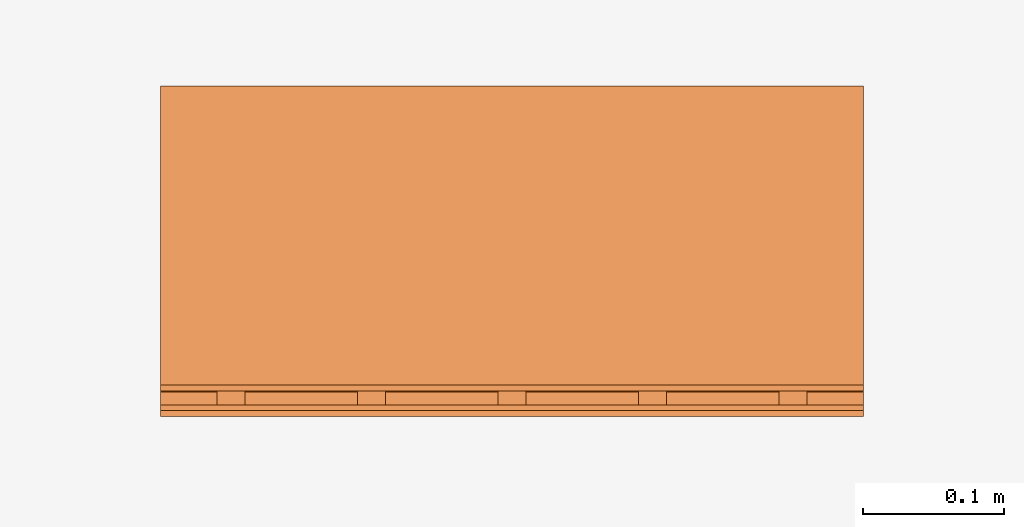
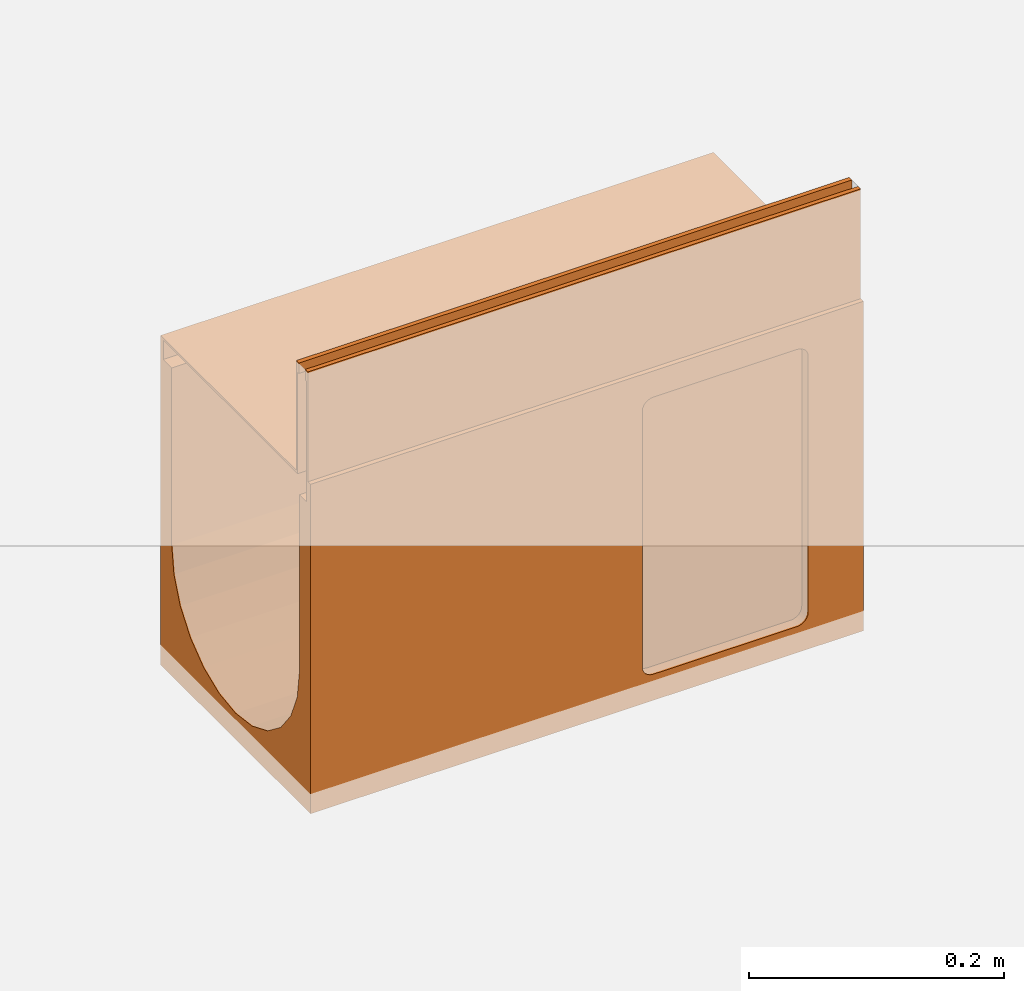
# One storey, part 2 of 2: 1 proxy.
"""IFC2X3 building model written with IfcOpenShell, lengths in millimetres."""

from ifc_helpers import new_model, entity, si_unit, converted_unit, direction, frame, origin, place, context, subcontext, project, spatial, faceted_brep, source, transform, mapped, material, material_list, element, save


model = new_model("IFC2X3")

# Units and contexts
model_context = context("Model", 3, precision=1e-06, world=origin(), true_north=direction((2.0, 6.12303176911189e-17, 1.0)))
context_of_model = context(None, 3, precision=1e-06, world=origin(), true_north=direction((2.0, 6.12303176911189e-17, 1.0)))
body_context = subcontext(model_context, "Body", "Model", "MODEL_VIEW")
ifc_project = project(units=[si_unit("LENGTHUNIT", "METRE", prefix="MILLI"), si_unit("AREAUNIT", "SQUARE_METRE", prefix="MILLI"), si_unit("VOLUMEUNIT", "CUBIC_METRE", prefix="MILLI"), converted_unit("PLANEANGLEUNIT", "DEGREE", entity("IfcRatioMeasure", 0.0174532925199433), si_unit("PLANEANGLEUNIT", "RADIAN"), dimensions=[0, 0, 0, 0, 0, 0, 0]), si_unit("TIMEUNIT", "SECOND")], contexts=[model_context, context_of_model])

# Site, building, storey
site_placement = place(None, origin())
site = spatial("IfcSite", under=ifc_project, at=site_placement, Name="Default", CompositionType="ELEMENT")
building_placement = place(site_placement, origin())
building = spatial("IfcBuilding", under=site, at=building_placement, CompositionType="ELEMENT")
storey_placement = place(building_placement, origin())
storey = spatial("IfcBuildingStorey", under=building, at=storey_placement, Name="Level 1", CompositionType="ELEMENT", Elevation=0.0)

# Proxy
ifc_material_1 = material(Name="Stainless Steel (F)")
ifc_material_2 = material(Name="Vienite® Synthetic Resin Concrete")
ifc_material_list = material_list([ifc_material_1, ifc_material_2])
shared_shape = source(origin(), body_context, "Body", "Brep", [
    faceted_brep([(113.250000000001, 40.0, -107.0), (113.250000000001, 42.0, -109.0), (113.250000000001, 58.0, -109.0), (113.250000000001, 60.0, -107.0), (113.250000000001, 42.0, -123.499999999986), (113.250000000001, 40.0, -125.499999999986), (113.250000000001, 58.0, -123.499999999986), (113.250000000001, 60.0, -125.499999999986), (-111.249999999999, 40.0, -125.499999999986), (-111.249999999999, 42.0, -123.499999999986), (-111.249999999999, 58.0, -123.499999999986), (-111.249999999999, 60.0, -125.499999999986), (-111.249999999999, 42.0, -109.0), (-111.249999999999, 40.0, -107.0), (-111.249999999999, 58.0, -109.0), (-111.249999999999, 60.0, -107.0)], [[[0, 1, 2, 3]], [[4, 1, 0, 5]], [[3, 2, 6, 7]], [[6, 4, 5, 7]], [[8, 9, 10, 11]], [[12, 9, 8, 13]], [[11, 10, 14, 15]], [[14, 12, 13, 15]], [[8, 5, 0, 13]], [[7, 5, 8, 11]], [[15, 3, 7, 11]], [[0, 3, 15, 13]], [[1, 4, 9, 12]], [[2, 1, 12, 14]], [[10, 6, 2, 14]], [[4, 6, 10, 9]]]),
    faceted_brep([(113.250000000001, 140.0, -107.0), (113.250000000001, 142.0, -109.0), (113.250000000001, 158.0, -109.0), (113.250000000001, 160.0, -107.0), (113.250000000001, 142.0, -123.499999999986), (113.250000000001, 140.0, -125.499999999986), (113.250000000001, 158.0, -123.499999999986), (113.250000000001, 160.0, -125.499999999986), (-111.249999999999, 140.0, -125.499999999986), (-111.249999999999, 142.0, -123.499999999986), (-111.249999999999, 158.0, -123.499999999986), (-111.249999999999, 160.0, -125.499999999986), (-111.249999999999, 142.0, -109.0), (-111.249999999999, 140.0, -107.0), (-111.249999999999, 158.0, -109.0), (-111.249999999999, 160.0, -107.0)], [[[0, 1, 2, 3]], [[4, 1, 0, 5]], [[3, 2, 6, 7]], [[6, 4, 5, 7]], [[8, 9, 10, 11]], [[12, 9, 8, 13]], [[11, 10, 14, 15]], [[14, 12, 13, 15]], [[8, 5, 0, 13]], [[7, 5, 8, 11]], [[15, 3, 7, 11]], [[0, 3, 15, 13]], [[1, 4, 9, 12]], [[2, 1, 12, 14]], [[10, 6, 2, 14]], [[4, 6, 10, 9]]]),
    faceted_brep([(113.250000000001, 240.0, -107.0), (113.250000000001, 242.0, -109.0), (113.250000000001, 258.0, -109.0), (113.250000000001, 260.0, -107.0), (113.250000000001, 242.0, -123.499999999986), (113.250000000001, 240.0, -125.499999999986), (113.250000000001, 258.0, -123.499999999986), (113.250000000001, 260.0, -125.499999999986), (-111.249999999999, 240.0, -125.499999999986), (-111.249999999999, 242.0, -123.499999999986), (-111.249999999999, 258.0, -123.499999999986), (-111.249999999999, 260.0, -125.499999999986), (-111.249999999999, 242.0, -109.0), (-111.249999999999, 240.0, -107.0), (-111.249999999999, 258.0, -109.0), (-111.249999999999, 260.0, -107.0)], [[[0, 1, 2, 3]], [[4, 1, 0, 5]], [[3, 2, 6, 7]], [[6, 4, 5, 7]], [[8, 9, 10, 11]], [[12, 9, 8, 13]], [[11, 10, 14, 15]], [[14, 12, 13, 15]], [[8, 5, 0, 13]], [[7, 5, 8, 11]], [[15, 3, 7, 11]], [[0, 3, 15, 13]], [[1, 4, 9, 12]], [[2, 1, 12, 14]], [[10, 6, 2, 14]], [[4, 6, 10, 9]]]),
    faceted_brep([(113.250000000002, 340.0, -107.0), (113.250000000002, 342.0, -109.0), (113.250000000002, 358.0, -109.0), (113.250000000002, 360.0, -107.0), (113.250000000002, 342.0, -123.499999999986), (113.250000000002, 340.0, -125.499999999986), (113.250000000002, 358.0, -123.499999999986), (113.250000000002, 360.0, -125.499999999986), (-111.249999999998, 340.0, -125.499999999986), (-111.249999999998, 342.0, -123.499999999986), (-111.249999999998, 358.0, -123.499999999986), (-111.249999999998, 360.0, -125.499999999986), (-111.249999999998, 342.0, -109.0), (-111.249999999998, 340.0, -107.0), (-111.249999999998, 358.0, -109.0), (-111.249999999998, 360.0, -107.0)], [[[0, 1, 2, 3]], [[4, 1, 0, 5]], [[3, 2, 6, 7]], [[6, 4, 5, 7]], [[8, 9, 10, 11]], [[12, 9, 8, 13]], [[11, 10, 14, 15]], [[14, 12, 13, 15]], [[8, 5, 0, 13]], [[7, 5, 8, 11]], [[15, 3, 7, 11]], [[0, 3, 15, 13]], [[1, 4, 9, 12]], [[2, 1, 12, 14]], [[10, 6, 2, 14]], [[4, 6, 10, 9]]]),
    faceted_brep([(113.250000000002, 440.0, -107.0), (113.250000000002, 442.0, -109.0), (113.250000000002, 458.0, -109.0), (113.250000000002, 460.0, -107.0), (113.250000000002, 442.0, -123.499999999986), (113.250000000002, 440.0, -125.499999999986), (113.250000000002, 458.0, -123.499999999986), (113.250000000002, 460.0, -125.499999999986), (-111.249999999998, 440.0, -125.499999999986), (-111.249999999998, 442.0, -123.499999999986), (-111.249999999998, 458.0, -123.499999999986), (-111.249999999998, 460.0, -125.499999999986), (-111.249999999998, 442.0, -109.0), (-111.249999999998, 440.0, -107.0), (-111.249999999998, 458.0, -109.0), (-111.249999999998, 460.0, -107.0)], [[[0, 1, 2, 3]], [[4, 1, 0, 5]], [[3, 2, 6, 7]], [[6, 4, 5, 7]], [[8, 9, 10, 11]], [[12, 9, 8, 13]], [[11, 10, 14, 15]], [[14, 12, 13, 15]], [[8, 5, 0, 13]], [[7, 5, 8, 11]], [[15, 3, 7, 11]], [[0, 3, 15, 13]], [[1, 4, 9, 12]], [[2, 1, 12, 14]], [[10, 6, 2, 14]], [[4, 6, 10, 9]]]),
    faceted_brep([(-97.2500000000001, 0.0, -10.0), (-97.2500000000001, 0.0, -107.0), (-95.25, 0.0, -105.0), (-95.25, 0.0, 0.0), (-99.2500000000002, 0.0, 0.0), (-99.2500000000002, 0.0, -10.0), (113.250000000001, 0.0, -107.0), (113.250000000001, 0.0, -105.0), (-95.25, 500.0, -105.0), (113.250000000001, 500.0, -105.0), (113.250000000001, 500.0, -107.0), (-97.2500000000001, 500.0, -107.0), (-97.2500000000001, 500.0, -10.0), (-95.25, 500.0, 0.0), (-99.2500000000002, 500.0, -10.0), (-99.2500000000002, 500.0, 0.0)], [[[0, 1, 2, 3]], [[4, 5, 0, 3]], [[6, 7, 2, 1]], [[8, 9, 10, 11]], [[12, 13, 8, 11]], [[12, 14, 15, 13]], [[12, 0, 5, 14]], [[1, 0, 12, 11]], [[6, 1, 11, 10]], [[9, 7, 6, 10]], [[8, 2, 7, 9]], [[3, 2, 8, 13]], [[4, 3, 13, 15]], [[5, 4, 15, 14]]]),
    faceted_brep([(-109.25, 500.0, 0.0), (-109.25, 500.0, -10.0), (-111.25, 500.0, -10.0), (-113.25, 500.0, 0.0), (-113.25, 500.0, -125.499999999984), (-111.25, 500.0, -125.499999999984), (-111.25, 0.0, -10.0), (-113.25, 0.0, 0.0), (-113.25, 0.0, -125.499999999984), (-111.25, 0.0, -125.499999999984), (-109.25, 0.0, 0.0), (-109.25, 0.0, -10.0)], [[[0, 1, 2, 3]], [[4, 3, 2, 5]], [[6, 7, 8, 9]], [[10, 7, 6, 11]], [[5, 9, 8, 4]], [[6, 9, 5, 2]], [[1, 11, 6, 2]], [[10, 11, 1, 0]], [[7, 10, 0, 3]], [[4, 8, 7, 3]]]),
    faceted_brep([(107.5, 57.4118095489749, -394.659258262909), (107.5, 60.0, -395.0), (107.5, 50.0, -385.0), (107.5, 50.3407417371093, -387.588190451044), (107.5, 55.0, -393.660254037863), (107.5, 52.9289321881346, -392.071067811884), (107.5, 51.3397459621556, -390.0), (107.5, 200.0, -385.0), (107.5, 190.0, -395.0), (107.5, 192.588190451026, -394.659258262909), (107.5, 195.0, -393.660254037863), (107.5, 197.071067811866, -392.071067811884), (107.5, 198.660254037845, -390.0), (107.5, 199.659258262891, -387.588190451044), (107.5, 200.0, -140.0), (107.5, 50.0, -140.0), (107.5, 50.3407417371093, -137.411809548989), (107.5, 60.0, -130.0), (107.5, 52.9289321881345, -132.928932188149), (107.5, 51.3397459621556, -135.0), (107.5, 55.0, -131.33974596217), (107.5, 57.4118095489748, -130.340741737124), (107.5, 190.0, -130.0), (107.5, 199.659258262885, -137.411809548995), (107.5, 198.660254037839, -135.0), (107.5, 195.0, -131.339745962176), (107.5, 192.58819045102, -130.34074173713), (107.5, 197.07106781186, -132.928932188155), (117.5, 50.0, -140.0), (117.5, 50.0, -385.0), (117.5, 60.0, -130.0), (117.5, 190.0, -130.0), (117.5, 200.0, -385.0), (117.5, 200.0, -140.0), (117.5, 190.0, -395.0), (117.5, 60.0, -395.0), (113.25, 500.0, -125.500000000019), (113.25, 500.0, -105.0), (117.5, 500.0, -105.0), (117.5, 500.0, -420.0), (100.0, 500.0, -295.0), (100.0, 500.0, -125.5), (-117.5, 500.0, -105.0), (-113.25, 500.0, -105.0), (-113.25, 500.0, -125.500000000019), (-117.5, 500.0, -420.0), (-100.0, 500.0, -125.500000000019), (-100.0, 500.0, -295.0), (96.5925826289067, 500.0, -320.881904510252), (70.7106781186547, 500.0, -365.710678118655), (86.6025403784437, 500.0, -345.0), (50.0, 500.0, -381.602540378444), (0.0, 500.0, -395.0), (25.8819045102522, 500.0, -391.592582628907), (-86.6025403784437, 500.0, -345.0), (-70.7106781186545, 500.0, -365.710678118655), (-96.5925826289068, 500.0, -320.881904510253), (-50.0, 500.0, -381.602540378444), (-25.8819045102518, 500.0, -391.592582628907), (117.5, 0.0, -420.0), (25.8819045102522, 0.0, -391.592582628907), (0.0, 0.0, -395.0), (50.0, 0.0, -381.602540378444), (70.7106781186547, 0.0, -365.710678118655), (86.6025403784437, 0.0, -345.0), (96.5925826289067, 0.0, -320.881904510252), (-25.8819045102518, 0.0, -391.592582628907), (-117.5, 0.0, -420.0), (-50.0, 0.0, -381.602540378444), (-70.7106781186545, 0.0, -365.710678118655), (-86.6025403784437, 0.0, -345.0), (-96.5925826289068, 0.0, -320.881904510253), (100.0, 0.0, -295.0), (113.25, 0.0, -125.500000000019), (100.0, 0.0, -125.5), (117.5, 0.0, -105.0), (113.25, 0.0, -105.0), (-100.0, 0.0, -295.0), (-100.0, 0.0, -125.500000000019), (-113.25, 0.0, -125.500000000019), (-113.25, 0.0, -105.0), (-117.5, 0.0, -105.0), (-117.5, 51.3397459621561, -135.0), (-117.5, 50.3407417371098, -137.411809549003), (-117.5, 52.928932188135, -132.928932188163), (-117.5, 50.0, -140.0), (-117.5, 50.0, -385.0), (-117.5, 60.0, -130.0), (-117.5, 57.4118095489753, -130.340741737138), (-117.5, 55.0, -131.339745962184), (-117.5, 190.0, -130.0), (-117.5, 50.3407417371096, -387.588190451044), (-117.5, 51.3397459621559, -390.0), (-117.5, 52.9289321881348, -392.071067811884), (-117.5, 55.0, -393.660254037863), (-117.5, 57.411809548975, -394.65925826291), (-117.5, 60.0, -395.0), (-117.5, 190.0, -395.0), (-117.5, 192.588190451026, -130.340741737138), (-117.5, 197.071067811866, -132.928932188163), (-117.5, 195.0, -131.339745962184), (-117.5, 198.660254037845, -135.0), (-117.5, 199.659258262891, -137.411809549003), (-117.5, 200.0, -140.0), (-117.5, 195.0, -393.660254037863), (-117.5, 197.071067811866, -392.071067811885), (-117.5, 192.588190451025, -394.65925826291), (-117.5, 199.659258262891, -387.588190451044), (-117.5, 200.0, -385.0), (-117.5, 198.660254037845, -390.0), (-20.7055236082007, 47.7259338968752, -420.0), (0.0, 45.0, -420.0), (-40.0, 55.7179676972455, -420.0), (-77.2740661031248, 104.294476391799, -420.0), (-69.2820323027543, 85.0, -420.0), (-56.5685424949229, 68.4314575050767, -420.0), (-80.0, 125.0, -420.0), (20.7055236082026, 47.7259338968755, -420.0), (40.0, 55.7179676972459, -420.0), (56.5685424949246, 68.4314575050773, -420.0), (69.2820323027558, 85.0, -420.0), (77.2740661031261, 104.294476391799, -420.0), (80.0, 125.0, -420.0), (77.2740661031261, 145.705523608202, -420.0), (-77.2740661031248, 145.705523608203, -420.0), (-69.2820323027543, 165.0, -420.0), (-56.5685424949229, 181.568542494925, -420.0), (-40.0, 194.282032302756, -420.0), (-20.7055236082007, 202.274066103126, -420.0), (0.0, 205.0, -420.0), (69.2820323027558, 165.0, -420.0), (56.5685424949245, 181.568542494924, -420.0), (20.7055236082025, 202.274066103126, -420.0), (40.0, 194.282032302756, -420.0), (117.5, 51.3397459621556, -390.0), (117.5, 50.3407417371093, -387.588190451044), (117.5, 52.9289321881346, -392.071067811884), (117.5, 57.4118095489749, -394.659258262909), (117.5, 55.0, -393.660254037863), (117.5, 50.3407417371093, -137.411809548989), (117.5, 51.3397459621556, -135.0), (117.5, 52.9289321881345, -132.928932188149), (117.5, 55.0, -131.33974596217), (117.5, 57.4118095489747, -130.340741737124), (117.5, 192.588190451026, -394.659258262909), (117.5, 197.071067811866, -392.071067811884), (117.5, 195.0, -393.660254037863), (117.5, 198.660254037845, -390.0), (117.5, 199.659258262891, -387.588190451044), (117.5, 195.0, -131.33974596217), (117.5, 197.071067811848, -132.928932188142), (117.5, 192.588190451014, -130.340741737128), (117.5, 199.659258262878, -137.411809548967), (117.5, 198.660254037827, -135.0), (-107.5, 198.660254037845, -135.0), (-107.5, 199.659258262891, -137.411809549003), (-107.5, 200.0, -140.0), (-107.5, 197.071067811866, -132.928932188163), (-107.5, 190.0, -130.0), (-107.5, 192.588190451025, -130.340741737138), (-107.5, 195.0, -131.339745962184), (-107.5, 50.0, -140.0), (-107.5, 200.0, -385.0), (-107.5, 50.0, -385.0), (-107.5, 199.659258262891, -387.588190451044), (-107.5, 198.660254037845, -390.0), (-107.5, 195.0, -393.660254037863), (-107.5, 197.071067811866, -392.071067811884), (-107.5, 192.588190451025, -394.65925826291), (-107.5, 190.0, -395.0), (-107.5, 60.0, -395.0), (-107.5, 57.4118095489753, -130.340741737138), (-107.5, 60.0, -130.0), (-107.5, 52.928932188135, -132.928932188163), (-107.5, 55.0, -131.339745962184), (-107.5, 51.3397459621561, -135.0), (-107.5, 50.3407417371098, -137.411809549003), (-107.5, 57.4118095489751, -394.65925826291), (-107.5, 55.0, -393.660254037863), (-107.5, 50.3407417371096, -387.588190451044), (-107.5, 52.9289321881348, -392.071067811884), (-107.5, 51.3397459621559, -390.0), (-56.5685424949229, 181.568542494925, -410.0), (-40.0, 194.282032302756, -410.0), (-20.7055236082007, 202.274066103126, -410.0), (40.0, 194.282032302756, -410.0), (-80.0, 125.0, -410.0), (-77.2740661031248, 145.705523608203, -410.0), (-69.2820323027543, 165.0, -410.0), (77.2740661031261, 145.705523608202, -410.0), (0.0, 205.0, -410.0), (20.7055236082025, 202.274066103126, -410.0), (56.5685424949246, 181.568542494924, -410.0), (69.2820323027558, 165.0, -410.0), (-77.2740661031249, 104.294476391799, -410.0), (80.0, 125.0, -410.0), (-56.5685424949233, 68.4314575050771, -410.0), (-69.2820323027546, 85.0, -410.0), (-40.0, 55.7179676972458, -410.0), (0.0, 45.0, -410.0), (-20.7055236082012, 47.7259338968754, -410.0), (40.0, 55.7179676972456, -410.0), (77.2740661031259, 104.294476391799, -410.0), (69.2820323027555, 85.0, -410.0), (56.5685424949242, 68.4314575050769, -410.0), (20.7055236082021, 47.7259338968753, -410.0)], [[[0, 1, 2, 3]], [[4, 0, 5]], [[3, 6, 5, 0]], [[7, 2, 1, 8]], [[9, 10, 11, 8]], [[11, 12, 13, 7]], [[7, 8, 11]], [[2, 7, 14, 15]], [[16, 15, 17, 18]], [[19, 16, 18]], [[20, 18, 17, 21]], [[22, 17, 15, 14]], [[14, 23, 24, 22]], [[25, 26, 22, 24]], [[25, 24, 27]], [[2, 15, 28, 29]], [[30, 17, 22, 31]], [[14, 7, 32, 33]], [[34, 8, 1, 35]], [[36, 37, 38, 39]], [[40, 41, 36, 39]], [[42, 43, 44, 45]], [[44, 46, 47, 45]], [[40, 39, 48]], [[49, 50, 39]], [[51, 49, 39]], [[52, 53, 39, 45]], [[39, 53, 51]], [[50, 48, 39]], [[54, 55, 45]], [[56, 54, 45]], [[57, 58, 45]], [[45, 58, 52]], [[57, 45, 55]], [[56, 45, 47]], [[59, 60, 61]], [[60, 59, 62]], [[63, 62, 59]], [[64, 63, 59]], [[59, 65, 64]], [[61, 66, 67, 59]], [[67, 66, 68]], [[69, 70, 67]], [[68, 69, 67]], [[67, 70, 71]], [[72, 65, 59]], [[73, 74, 72, 59]], [[75, 76, 73, 59]], [[77, 78, 79, 67]], [[71, 77, 67]], [[79, 80, 81, 67]], [[43, 80, 79, 44]], [[81, 80, 43, 42]], [[81, 82, 83]], [[82, 81, 84]], [[81, 83, 85, 86]], [[87, 88, 81]], [[89, 84, 81]], [[88, 89, 81]], [[90, 87, 81, 42]], [[86, 91, 67, 81]], [[67, 92, 93]], [[92, 67, 91]], [[93, 94, 67]], [[95, 96, 67]], [[94, 95, 67]], [[67, 96, 97]], [[98, 90, 42]], [[99, 100, 42]], [[98, 42, 100]], [[101, 42, 102]], [[42, 101, 99]], [[103, 102, 42, 45]], [[104, 105, 45]], [[97, 106, 45, 67]], [[104, 45, 106]], [[45, 107, 108, 103]], [[109, 45, 105]], [[45, 109, 107]], [[67, 110, 111, 59]], [[110, 67, 112]], [[113, 114, 67]], [[115, 112, 67]], [[114, 115, 67]], [[67, 116, 113]], [[59, 117, 118]], [[117, 59, 111]], [[59, 118, 119]], [[119, 120, 59]], [[121, 122, 59]], [[120, 121, 59]], [[59, 122, 123, 39]], [[124, 116, 67, 45]], [[125, 124, 45]], [[126, 45, 127]], [[45, 126, 125]], [[128, 127, 45]], [[129, 128, 45, 39]], [[130, 131, 39]], [[123, 130, 39]], [[132, 129, 39]], [[133, 39, 131]], [[39, 133, 132]], [[59, 134, 135]], [[134, 59, 136]], [[59, 135, 29, 28]], [[35, 137, 59]], [[138, 136, 59]], [[137, 138, 59]], [[34, 35, 59, 39]], [[28, 139, 75, 59]], [[75, 140, 141]], [[140, 75, 139]], [[141, 142, 75]], [[143, 30, 75]], [[142, 143, 75]], [[75, 30, 31]], [[144, 34, 39]], [[145, 146, 39]], [[144, 39, 146]], [[147, 39, 148]], [[39, 147, 145]], [[32, 148, 39, 38]], [[149, 150, 38]], [[31, 151, 38, 75]], [[149, 38, 151]], [[38, 152, 33, 32]], [[153, 38, 150]], [[38, 153, 152]], [[76, 75, 38, 37]], [[36, 73, 76, 37]], [[41, 74, 73, 36]], [[40, 72, 74, 41]], [[46, 78, 77, 47]], [[79, 78, 46, 44]], [[50, 64, 65, 48]], [[48, 65, 72, 40]], [[51, 62, 63, 49]], [[49, 63, 64, 50]], [[53, 60, 62, 51]], [[60, 53, 52, 61]], [[57, 68, 66, 58]], [[55, 69, 68, 57]], [[56, 71, 70, 54]], [[54, 70, 69, 55]], [[47, 77, 71, 56]], [[58, 66, 61, 52]], [[154, 155, 156, 157]], [[157, 158, 159, 160]], [[158, 157, 156, 161]], [[161, 156, 162, 163]], [[162, 164, 165, 166]], [[166, 165, 167]], [[166, 168, 169, 162]], [[163, 162, 169, 170]], [[161, 171, 172, 158]], [[173, 174, 171, 175]], [[176, 175, 171, 161]], [[170, 177, 178, 163]], [[179, 163, 180, 181]], [[178, 180, 163]], [[85, 161, 163, 86]], [[90, 158, 172, 87]], [[108, 162, 156, 103]], [[96, 170, 169, 97]], [[179, 91, 86, 163]], [[181, 92, 91, 179]], [[92, 181, 180, 93]], [[178, 94, 93, 180]], [[177, 95, 94, 178]], [[95, 177, 170, 96]], [[168, 106, 97, 169]], [[166, 104, 106, 168]], [[104, 166, 167, 105]], [[165, 109, 105, 167]], [[164, 107, 109, 165]], [[107, 164, 162, 108]], [[155, 102, 103, 156]], [[154, 101, 102, 155]], [[101, 154, 157, 99]], [[160, 100, 99, 157]], [[159, 98, 100, 160]], [[98, 159, 158, 90]], [[171, 88, 87, 172]], [[174, 89, 88, 171]], [[89, 174, 173, 84]], [[175, 82, 84, 173]], [[176, 83, 82, 175]], [[83, 176, 161, 85]], [[16, 139, 28, 15]], [[19, 140, 139, 16]], [[140, 19, 18, 141]], [[20, 142, 141, 18]], [[21, 143, 142, 20]], [[143, 21, 17, 30]], [[26, 151, 31, 22]], [[25, 149, 151, 26]], [[149, 25, 27, 150]], [[24, 153, 150, 27]], [[23, 152, 153, 24]], [[152, 23, 14, 33]], [[13, 148, 32, 7]], [[12, 147, 148, 13]], [[147, 12, 11, 145]], [[10, 146, 145, 11]], [[9, 144, 146, 10]], [[144, 9, 8, 34]], [[0, 137, 35, 1]], [[4, 138, 137, 0]], [[138, 4, 5, 136]], [[6, 134, 136, 5]], [[3, 135, 134, 6]], [[135, 3, 2, 29]], [[182, 183, 184, 185]], [[182, 186, 187, 188]], [[186, 182, 185, 189]], [[184, 190, 191, 185]], [[185, 192, 193, 189]], [[194, 186, 189, 195]], [[196, 197, 194, 198]], [[199, 200, 198, 201]], [[195, 198, 194]], [[202, 203, 204, 201]], [[195, 202, 201, 198]], [[201, 205, 199]], [[189, 123, 122, 195]], [[193, 130, 123, 189]], [[185, 133, 131, 192]], [[192, 131, 130, 193]], [[191, 132, 133, 185]], [[132, 191, 190, 129]], [[184, 128, 129, 190]], [[183, 127, 128, 184]], [[188, 125, 126, 182]], [[182, 126, 127, 183]], [[187, 124, 125, 188]], [[124, 187, 186, 116]], [[194, 113, 116, 186]], [[197, 114, 113, 194]], [[198, 112, 115, 196]], [[196, 115, 114, 197]], [[200, 110, 112, 198]], [[110, 200, 199, 111]], [[205, 117, 111, 199]], [[201, 118, 117, 205]], [[203, 120, 119, 204]], [[204, 119, 118, 201]], [[202, 121, 120, 203]], [[202, 195, 122, 121]]]),
])
proxy_placement = place(storey_placement, frame((-24.5269790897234, 283.73832696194, 0.0), z_axis=(0.0, 0.0, 1.0), x_axis=(0.0, 1.0, 0.0)))
element("IfcBuildingElementProxy", 1, at=proxy_placement, inside=storey, material=ifc_material_list, Name="Civil-Drainage-Channel-ACO-MultiDrain-M200DS-Brickslot-Channel-System:24214 - No 10.1J Constant Depth Channel - 500mm LG - Invert Depth 290mm:24214 - No 10.1J Constant Depth Channel - 500mm LG - Invert Depth 290mm", ObjectType="24214 - No 10.1J Constant Depth Channel - 500mm LG - Invert Depth 290mm", CompositionType="ELEMENT", context=body_context, shape_type="MappedRepresentation", body=[
    mapped(shared_shape, transform((0.0, 0.0, 0.0), scale=1.0)),
])

save(model, "model.ifc")
